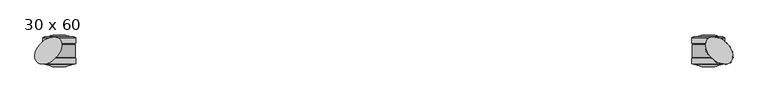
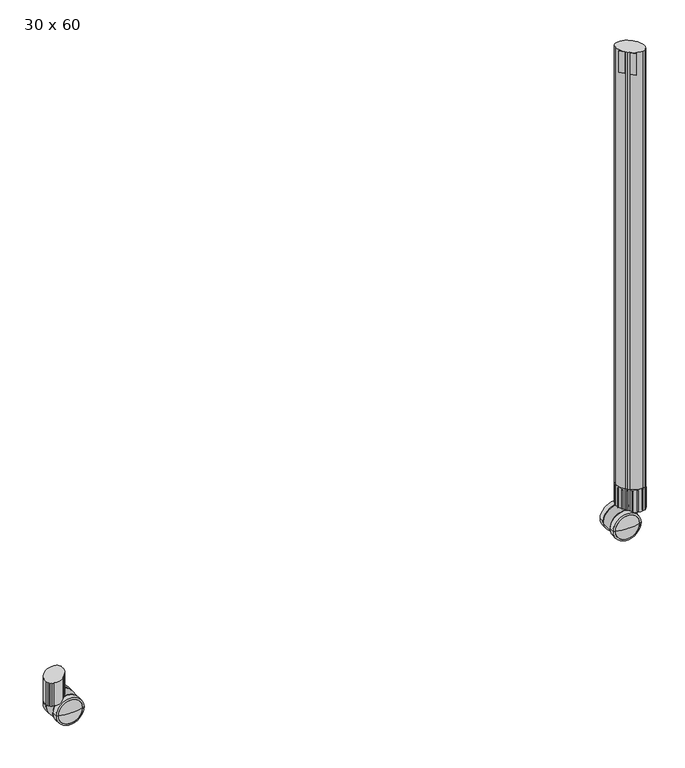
"""IFC4 building model written with IfcOpenShell, lengths in millimetres: furniture geometry, SmithSystem_AM_Desking_Education_Interchange_Student_Activity : 30 x 60."""

from ifc_helpers import new_model, si_unit, point, frame, frame_2d, origin, place, context, project, spatial, polyline, circle_curve, ellipse_curve, trimmed, segment, composite_curve, outline, extrude, source, transform, mapped, element, save
from ifc_brep_helpers import plane_surface, cylinder_surface, revolved_surface, advanced_brep


def furniture_30_x_60_d7a7b847(model_context):
    return source(origin(), model_context, "Body", "SolidModel", [
        advanced_brep(
        [(1479.3682807, 686.5171568, 35.017382), (1418.7629669, 686.5171568, 35.017382), (1418.7629669, 673.2758867, 35.017382), (1479.3682807, 673.2758867, 35.017382), (1483.6326573, 686.5171568, 35.017382), (1414.4985903, 686.5171568, 35.017382), (1483.6326573, 674.7474734, 35.017382), (1414.4985903, 674.7474734, 35.017382)],
        [
            (0, 1, circle_curve(frame((1449.0656238, 686.5171568, 35.017382), z_axis=(0.0, 1.0, 0.0), x_axis=(-1.0000000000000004, 0.0, 0.0)), 30.3026569)),
            (1, 2),
            (2, 3, circle_curve(frame((1449.0656238, 673.2758867, 35.017382), z_axis=(0.0, -1.0, 0.0), x_axis=(-1.0000000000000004, 0.0, 0.0)), 30.3026569)),
            (3, 0),
            (1, 0, circle_curve(frame((1449.0656238, 686.5171568, 35.017382), z_axis=(0.0, 1.0, 0.0), x_axis=(-1.0000000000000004, 0.0, 0.0)), 30.3026569)),
            (3, 2, circle_curve(frame((1449.0656238, 673.2758867, 35.017382), z_axis=(0.0, -1.0, 0.0), x_axis=(-1.0000000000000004, 0.0, 0.0)), 30.3026569)),
            (4, 5, circle_curve(frame((1449.0656238, 686.5171568, 35.017382), z_axis=(0.0, 1.0, 0.0), x_axis=(-1.0000000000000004, 0.0, 0.0)), 34.5670335)),
            (5, 1),
            (0, 4),
            (5, 4, circle_curve(frame((1449.0656238, 686.5171568, 35.017382), z_axis=(0.0, 1.0, 0.0), x_axis=(-1.0000000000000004, 0.0, 0.0)), 34.5670335)),
            (6, 7, circle_curve(frame((1449.0656238, 674.7474734, 35.017382), z_axis=(0.0, 1.0, 0.0), x_axis=(-1.0000000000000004, 0.0, 0.0)), 34.5670335)),
            (7, 5),
            (4, 6),
            (7, 6, circle_curve(frame((1449.0656238, 674.7474734, 35.017382), z_axis=(0.0, 1.0, 0.0), x_axis=(-1.0000000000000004, 0.0, 0.0)), 34.5670335)),
            (2, 7),
            (6, 3),
        ],
        [
            revolved_surface(polyline([(1418.7629668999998, 673.2758867, 35.017382), (1418.7629668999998, 686.5171568, 35.017382)]), (1449.0656238, 686.5171568, 35.017382), (0.0, -1.0, 0.0)),
            plane_surface(frame((1449.0656238, 686.5171568, 35.017382), z_axis=(0.0, 1.0, 0.0), x_axis=(-1.0, 0.0, 0.0))),
            cylinder_surface(frame((1449.0656238, 686.5171568, 35.017382), z_axis=(0.0, -1.0, 0.0), x_axis=(-1.0000000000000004, 0.0, 0.0)), 34.5670335),
            revolved_surface(polyline([(1414.4985903, 674.7474734, 35.017382), (1418.7629669, 673.2758867, 35.017382)]), (1449.0656238, 686.5171568, 35.017382), (0.0, -1.0, 0.0)),
        ],
        [
            (0, [[1, 2, 3, 4]]),
            (0, [[5, -4, 6, -2]]),
            (1, [[7, 8, -1, 9]]),
            (1, [[10, -9, -5, -8]]),
            (2, [[11, 12, -7, 13]]),
            (2, [[14, -13, -10, -12]]),
            (3, [[-3, 15, -11, 16]]),
            (3, [[-6, -16, -14, -15]]),
        ],
    ),
        advanced_brep(
        [(1483.6326573, 730.1295585, 35.017382), (1414.4985903, 730.1295585, 35.017382), (1418.7629669, 731.6011452, 35.017382), (1479.3682807, 731.6011452, 35.017382), (1483.6326573, 718.3598751, 35.017382), (1414.4985903, 718.3598751, 35.017382), (1479.3682807, 718.3598751, 35.017382), (1418.7629669, 718.3598751, 35.017382)],
        [
            (0, 1, circle_curve(frame((1449.0656238, 730.1295585, 35.017382), z_axis=(0.0, 1.0, 0.0), x_axis=(-1.0000000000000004, 0.0, 0.0)), 34.5670335)),
            (1, 2),
            (2, 3, circle_curve(frame((1449.0656238, 731.6011452, 35.017382), z_axis=(0.0, -1.0, 0.0), x_axis=(-1.0000000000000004, 0.0, 0.0)), 30.3026569)),
            (3, 0),
            (1, 0, circle_curve(frame((1449.0656238, 730.1295585, 35.017382), z_axis=(0.0, 1.0, 0.0), x_axis=(-1.0000000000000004, 0.0, 0.0)), 34.5670335)),
            (3, 2, circle_curve(frame((1449.0656238, 731.6011452, 35.017382), z_axis=(0.0, -1.0, 0.0), x_axis=(-1.0000000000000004, 0.0, 0.0)), 30.3026569)),
            (4, 5, circle_curve(frame((1449.0656238, 718.3598751, 35.017382), z_axis=(0.0, 1.0, 0.0), x_axis=(-1.0000000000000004, 0.0, 0.0)), 34.5670335)),
            (5, 1),
            (0, 4),
            (5, 4, circle_curve(frame((1449.0656238, 718.3598751, 35.017382), z_axis=(0.0, 1.0, 0.0), x_axis=(-1.0000000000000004, 0.0, 0.0)), 34.5670335)),
            (6, 7, circle_curve(frame((1449.0656238, 718.3598751, 35.017382), z_axis=(0.0, 1.0, 0.0), x_axis=(-1.0000000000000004, 0.0, 0.0)), 30.3026569)),
            (7, 5),
            (4, 6),
            (7, 6, circle_curve(frame((1449.0656238, 718.3598751, 35.017382), z_axis=(0.0, 1.0, 0.0), x_axis=(-1.0000000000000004, 0.0, 0.0)), 30.3026569)),
            (2, 7),
            (6, 3),
        ],
        [
            revolved_surface(polyline([(1418.7629669, 731.6011452, 35.017382), (1414.4985903, 730.1295585, 35.017382)]), (1449.0656238, 686.5171568, 35.017382), (0.0, -1.0, 0.0)),
            cylinder_surface(frame((1449.0656238, 686.5171568, 35.017382), z_axis=(0.0, -1.0, 0.0), x_axis=(-1.0000000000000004, 0.0, 0.0)), 34.5670335),
            plane_surface(frame((1449.0656238, 718.3598751, 35.017382), z_axis=(0.0, -1.0, 0.0), x_axis=(-1.0, 0.0, 0.0))),
            revolved_surface(polyline([(1418.7629668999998, 718.3598751, 35.017382), (1418.7629668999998, 731.6011452, 35.017382)]), (1449.0656238, 686.5171568, 35.017382), (0.0, -1.0, 0.0)),
        ],
        [
            (0, [[1, 2, 3, 4]]),
            (0, [[5, -4, 6, -2]]),
            (1, [[7, 8, -1, 9]]),
            (1, [[10, -9, -5, -8]]),
            (2, [[11, 12, -7, 13]]),
            (2, [[14, -13, -10, -12]]),
            (3, [[-3, 15, -11, 16]]),
            (3, [[-6, -16, -14, -15]]),
        ],
    ),
        extrude(outline(composite_curve([segment(polyline([(19.2150301, 1452.4697558), (19.2150301, 1479.476395)]), True, "CONTINUOUS"), segment(trimmed(circle_curve(frame_2d((35.017382, 1449.0656238)), 34.2714069), [point((19.2150301, 1479.476395))], [point((30.4371053, 1415.1016665))], False, "CARTESIAN"), True, "CONTINUOUS"), segment(polyline([(30.4371053, 1415.1016665), (25.5146264, 1423.9644339), (25.5146264, 1446.1701594), (19.2150301, 1452.4697558)]), True, "CONTINUOUS")], self_intersect=False)), frame((0.0, 688.2472519, 0.0), z_axis=(0.0, 1.0, 0.0), x_axis=(0.0, 0.0, 1.0)), (0.0, 0.0, 1.0), 26.9875),
        advanced_brep(
        [(1479.3682807, 686.5171568, 35.017382), (1418.7629669, 686.5171568, 35.017382), (1449.0656238, 686.5171568, 35.017382), (1449.0656238, 668.1943698, 35.017382), (1418.7629669, 673.2758867, 35.017382), (1479.3682807, 673.2758867, 35.017382)],
        [
            (0, 1, circle_curve(frame((1449.0656238, 686.5171568, 35.017382), z_axis=(0.0, 1.0, 0.0), x_axis=(-1.0000000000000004, 0.0, 0.0)), 30.3026569)),
            (1, 2),
            (2, 0),
            (1, 0, circle_curve(frame((1449.0656238, 686.5171568, 35.017382), z_axis=(0.0, 1.0, 0.0), x_axis=(-1.0000000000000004, 0.0, 0.0)), 30.3026569)),
            (3, 4, circle_curve(frame((1449.0656238, 761.0871862, 35.017382), z_axis=(0.0, 0.0, -1.0000000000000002), x_axis=(0.0, 1.0, 0.0)), 92.8928164)),
            (4, 5, circle_curve(frame((1449.0656238, 673.2758867, 35.017382), z_axis=(0.0, -1.0, 0.0), x_axis=(-1.0000000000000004, 0.0, 0.0)), 30.3026569)),
            (5, 3, circle_curve(frame((1449.0656238, 761.0871862, 35.017382), z_axis=(0.0, 0.0, -1.0000000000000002), x_axis=(0.0, 1.0, 0.0)), 92.8928164)),
            (5, 4, circle_curve(frame((1449.0656238, 673.2758867, 35.017382), z_axis=(0.0, -1.0, 0.0), x_axis=(-1.0000000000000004, 0.0, 0.0)), 30.3026569)),
            (4, 1),
            (0, 5),
        ],
        [
            plane_surface(frame((1449.0656238, 686.5171568, 35.017382), z_axis=(0.0, 1.0, 0.0), x_axis=(-1.0, 0.0, 0.0))),
            revolved_surface(trimmed(ellipse_curve(frame((1449.0656238, 761.0871862, 35.017382), z_axis=(0.0, 0.0, 1.0000000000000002), x_axis=(0.0, 1.0, 0.0)), 92.8928164, 92.8928164), [point((1418.7629669, 673.2758867, 35.017382))], [point((1449.0656238, 668.1943698, 35.017382))], True, "CARTESIAN"), (1449.0656238, 686.5171568, 35.017382), (0.0, -1.0, 0.0)),
            cylinder_surface(frame((1449.0656238, 686.5171568, 35.017382), z_axis=(0.0, -1.0, 0.0), x_axis=(-1.0000000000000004, 0.0, 0.0)), 30.3026569),
        ],
        [
            (0, [[1, 2, 3]]),
            (0, [[4, -3, -2]]),
            (1, [[5, 6, 7]]),
            (1, [[-7, 8, -5]]),
            (2, [[-6, 9, -1, 10]]),
            (2, [[-8, -10, -4, -9]]),
        ],
    ),
        advanced_brep(
        [(1479.3682807, 717.1194939, 35.017382), (1418.7629669, 717.1194939, 35.017382), (1418.7629669, 730.360764, 35.017382), (1479.3682807, 730.360764, 35.017382), (1449.0656238, 735.4422809, 35.017382), (1449.0656238, 717.1194939, 35.017382)],
        [
            (0, 1, circle_curve(frame((1449.0656238, 717.1194939, 35.017382), z_axis=(0.0, 1.0, 0.0), x_axis=(-1.0000000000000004, 0.0, 0.0)), 30.3026569)),
            (1, 2),
            (2, 3, circle_curve(frame((1449.0656238, 730.360764, 35.017382), z_axis=(0.0, -1.0, 0.0), x_axis=(-1.0000000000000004, 0.0, 0.0)), 30.3026569)),
            (3, 0),
            (1, 0, circle_curve(frame((1449.0656238, 717.1194939, 35.017382), z_axis=(0.0, 1.0, 0.0), x_axis=(-1.0000000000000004, 0.0, 0.0)), 30.3026569)),
            (3, 2, circle_curve(frame((1449.0656238, 730.360764, 35.017382), z_axis=(0.0, -1.0, 0.0), x_axis=(-1.0000000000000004, 0.0, 0.0)), 30.3026569)),
            (2, 4, circle_curve(frame((1449.0656238, 642.5494645, 35.017382), z_axis=(0.0, 0.0, -1.0000000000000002), x_axis=(0.0, 1.0, 0.0)), 92.8928164)),
            (4, 3, circle_curve(frame((1449.0656238, 642.5494645, 35.017382), z_axis=(0.0, 0.0, -1.0000000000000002), x_axis=(0.0, 1.0, 0.0)), 92.8928164)),
            (5, 1),
            (0, 5),
        ],
        [
            cylinder_surface(frame((1449.0656238, 686.5171568, 35.017382), z_axis=(0.0, -1.0, 0.0), x_axis=(-1.0000000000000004, 0.0, 0.0)), 30.3026569),
            revolved_surface(trimmed(ellipse_curve(frame((1449.0656238, 642.5494645, 35.017382), z_axis=(0.0, 0.0, 1.0000000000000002), x_axis=(0.0, 1.0, 0.0)), 92.8928164, 92.8928164), [point((1449.0656238, 735.4422809, 35.017382))], [point((1418.7629669, 730.360764, 35.017382))], True, "CARTESIAN"), (1449.0656238, 686.5171568, 35.017382), (0.0, -1.0, 0.0)),
            plane_surface(frame((1449.0656238, 717.1194939, 35.017382), z_axis=(0.0, -1.0, 0.0), x_axis=(-1.0, 0.0, 0.0))),
        ],
        [
            (0, [[1, 2, 3, 4]]),
            (0, [[5, -4, 6, -2]]),
            (1, [[-3, 7, 8]]),
            (1, [[-6, -8, -7]]),
            (2, [[9, -1, 10]]),
            (2, [[-10, -5, -9]]),
        ],
    ),
        advanced_brep(
        [(1472.3098504, 702.4385159, 82.55), (1457.1881611, 687.3168266, 82.55), (1487.4315397, 717.5602052, 82.55), (1479.1455485, 709.274214, 44.141232), (1465.4741524, 695.6028179, 44.141232), (1472.3098504, 702.4385159, 44.141232), (1479.1455485, 709.274214, 70.5739), (1465.4741524, 695.6028179, 70.5739), (1475.4087581, 705.5374236, 70.5739), (1469.2109428, 699.3396083, 70.5739), (1475.4087581, 705.5374236, 72.4789), (1469.2109428, 699.3396083, 72.4789), (1479.1455485, 709.274214, 72.4789), (1465.4741524, 695.6028179, 72.4789), (1479.1455485, 709.274214, 77.5589), (1465.4741524, 695.6028179, 77.5589), (1487.4315397, 717.5602052, 77.5589), (1457.1881611, 687.3168266, 77.5589)],
        [
            (0, 1),
            (1, 2, circle_curve(frame((1472.3098504, 702.4385159, 82.55), z_axis=(0.0, 0.0, 1.0), x_axis=(-0.7071067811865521, -0.707106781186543, 0.0)), 21.3852981)),
            (2, 0),
            (2, 1, circle_curve(frame((1472.3098504, 702.4385159, 82.55), z_axis=(0.0, 0.0, 1.0), x_axis=(-0.7071067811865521, -0.707106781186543, 0.0)), 21.3852981)),
            (3, 4, circle_curve(frame((1472.3098504, 702.4385159, 44.141232), z_axis=(0.0, 0.0, -1.0), x_axis=(-0.7071067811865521, -0.707106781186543, 0.0)), 9.6671369)),
            (4, 5),
            (5, 3),
            (4, 3, circle_curve(frame((1472.3098504, 702.4385159, 44.141232), z_axis=(0.0, 0.0, -1.0), x_axis=(-0.7071067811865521, -0.707106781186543, 0.0)), 9.6671369)),
            (6, 7, circle_curve(frame((1472.3098504, 702.4385159, 70.5739), z_axis=(0.0, 0.0, -1.0), x_axis=(-0.7071067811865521, -0.707106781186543, 0.0)), 9.6671369)),
            (7, 4),
            (3, 6),
            (7, 6, circle_curve(frame((1472.3098504, 702.4385159, 70.5739), z_axis=(0.0, 0.0, -1.0), x_axis=(-0.7071067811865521, -0.707106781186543, 0.0)), 9.6671369)),
            (8, 9, circle_curve(frame((1472.3098504, 702.4385159, 70.5739), z_axis=(0.0, 0.0, -1.0), x_axis=(-0.7071067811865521, -0.707106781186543, 0.0)), 4.3825172)),
            (9, 7),
            (6, 8),
            (9, 8, circle_curve(frame((1472.3098504, 702.4385159, 70.5739), z_axis=(0.0, 0.0, -1.0), x_axis=(-0.7071067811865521, -0.707106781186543, 0.0)), 4.3825172)),
            (10, 11, circle_curve(frame((1472.3098504, 702.4385159, 72.4789), z_axis=(0.0, 0.0, -1.0), x_axis=(-0.7071067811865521, -0.707106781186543, 0.0)), 4.3825172)),
            (11, 9),
            (8, 10),
            (11, 10, circle_curve(frame((1472.3098504, 702.4385159, 72.4789), z_axis=(0.0, 0.0, -1.0), x_axis=(-0.7071067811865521, -0.707106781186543, 0.0)), 4.3825172)),
            (12, 13, circle_curve(frame((1472.3098504, 702.4385159, 72.4789), z_axis=(0.0, 0.0, -1.0), x_axis=(-0.7071067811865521, -0.707106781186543, 0.0)), 9.6671369)),
            (13, 11),
            (10, 12),
            (13, 12, circle_curve(frame((1472.3098504, 702.4385159, 72.4789), z_axis=(0.0, 0.0, -1.0), x_axis=(-0.7071067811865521, -0.707106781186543, 0.0)), 9.6671369)),
            (14, 15, circle_curve(frame((1472.3098504, 702.4385159, 77.5589), z_axis=(0.0, 0.0, -1.0), x_axis=(-0.7071067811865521, -0.707106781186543, 0.0)), 9.6671369)),
            (15, 13),
            (12, 14),
            (15, 14, circle_curve(frame((1472.3098504, 702.4385159, 77.5589), z_axis=(0.0, 0.0, -1.0), x_axis=(-0.7071067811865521, -0.707106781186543, 0.0)), 9.6671369)),
            (16, 17, circle_curve(frame((1472.3098504, 702.4385159, 77.5589), z_axis=(0.0, 0.0, -1.0), x_axis=(-0.7071067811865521, -0.707106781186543, 0.0)), 21.3852981)),
            (17, 15),
            (14, 16),
            (17, 16, circle_curve(frame((1472.3098504, 702.4385159, 77.5589), z_axis=(0.0, 0.0, -1.0), x_axis=(-0.7071067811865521, -0.707106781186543, 0.0)), 21.3852981)),
            (1, 17),
            (16, 2),
        ],
        [
            plane_surface(frame((1472.3098504, 702.4385159, 82.55), z_axis=(0.0, 0.0, 1.0000000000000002), x_axis=(-0.7071067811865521, -0.707106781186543, 0.0))),
            plane_surface(frame((1472.3098504, 702.4385159, 44.141232), z_axis=(0.0, 0.0, -1.0000000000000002), x_axis=(-0.7071067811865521, -0.707106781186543, 0.0))),
            cylinder_surface(frame((1472.3098504, 702.4385159, 56.841232), z_axis=(0.0, 0.0, 1.0), x_axis=(-0.7071067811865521, -0.707106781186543, 0.0)), 9.6671369),
            plane_surface(frame((1472.3098504, 702.4385159, 70.5739), z_axis=(0.0, 0.0, 1.0000000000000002), x_axis=(-0.7071067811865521, -0.707106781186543, 0.0))),
            cylinder_surface(frame((1472.3098504, 702.4385159, 56.841232), z_axis=(0.0, 0.0, 1.0), x_axis=(-0.7071067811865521, -0.707106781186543, 0.0)), 4.3825172),
            plane_surface(frame((1472.3098504, 702.4385159, 72.4789), z_axis=(0.0, 0.0, -1.0000000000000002), x_axis=(-0.7071067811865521, -0.707106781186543, 0.0))),
            plane_surface(frame((1472.3098504, 702.4385159, 77.5589), z_axis=(0.0, 0.0, -1.0000000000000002), x_axis=(-0.7071067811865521, -0.707106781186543, 0.0))),
            cylinder_surface(frame((1472.3098504, 702.4385159, 56.841232), z_axis=(0.0, 0.0, 1.0), x_axis=(-0.7071067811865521, -0.707106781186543, 0.0)), 21.3852981),
        ],
        [
            (0, [[1, 2, 3]]),
            (0, [[-3, 4, -1]]),
            (1, [[5, 6, 7]]),
            (1, [[8, -7, -6]]),
            (2, [[9, 10, -5, 11]]),
            (2, [[12, -11, -8, -10]]),
            (3, [[13, 14, -9, 15]]),
            (3, [[16, -15, -12, -14]]),
            (4, [[17, 18, -13, 19]]),
            (4, [[20, -19, -16, -18]]),
            (5, [[21, 22, -17, 23]]),
            (5, [[24, -23, -20, -22]]),
            (2, [[25, 26, -21, 27]]),
            (2, [[28, -27, -24, -26]]),
            (6, [[29, 30, -25, 31]]),
            (6, [[32, -31, -28, -30]]),
            (7, [[-2, 33, -29, 34]]),
            (7, [[-4, -34, -32, -33]]),
        ],
    ),
        extrude(outline(composite_curve([segment(trimmed(circle_curve(frame_2d((1476.4964298, 713.8093002)), 32.5855406), [point((1453.4549731, 690.7678435))], [point((1444.1537769, 717.7804787))], False, "CARTESIAN"), True, "CONTINUOUS"), segment(trimmed(circle_curve(frame_2d((1463.6817209, 715.3827486)), 19.6745954), [point((1444.1537769, 717.7804787))], [point((1445.5137305, 722.9334989))], False, "CARTESIAN"), True, "CONTINUOUS"), segment(trimmed(circle_curve(frame_2d((1453.7793536, 719.4982452)), 8.9510611), [point((1445.5137305, 722.9334989))], [point((1447.4499976, 725.8276012))], False, "CARTESIAN"), True, "CONTINUOUS"), segment(polyline([(1447.4499976, 725.8276012), (1448.1853814, 726.5629849), (1448.9207652, 727.2983687)]), True, "CONTINUOUS"), segment(trimmed(circle_curve(frame_2d((1455.2501212, 720.9690127)), 8.9510611), [point((1448.9207652, 727.2983687))], [point((1451.8148675, 729.2346359))], False, "CARTESIAN"), True, "CONTINUOUS"), segment(trimmed(circle_curve(frame_2d((1459.3656177, 711.0666455)), 19.6745954), [point((1451.8148675, 729.2346359))], [point((1456.9678877, 730.5945895))], False, "CARTESIAN"), True, "CONTINUOUS"), segment(trimmed(circle_curve(frame_2d((1460.9390661, 698.2519365)), 32.5855406), [point((1456.9678877, 730.5945895))], [point((1483.9805229, 721.2933933))], False, "CARTESIAN"), True, "CONTINUOUS"), segment(polyline([(1483.9805229, 721.2933933), (1487.5726253, 717.7012908), (1491.1647278, 714.1091884)]), True, "CONTINUOUS"), segment(trimmed(circle_curve(frame_2d((1468.123271, 691.0677316)), 32.5855406), [point((1491.1647278, 714.1091884))], [point((1500.465924, 687.0965532))], False, "CARTESIAN"), True, "CONTINUOUS"), segment(trimmed(circle_curve(frame_2d((1480.93798, 689.4942832)), 19.6745954), [point((1500.465924, 687.0965532))], [point((1499.1059704, 681.943533))], False, "CARTESIAN"), True, "CONTINUOUS"), segment(trimmed(circle_curve(frame_2d((1490.8403472, 685.3787867)), 8.9510611), [point((1499.1059704, 681.943533))], [point((1497.1697032, 679.0494307))], False, "CARTESIAN"), True, "CONTINUOUS"), segment(polyline([(1497.1697032, 679.0494307), (1496.4343195, 678.3140469), (1495.6989357, 677.5786631)]), True, "CONTINUOUS"), segment(trimmed(circle_curve(frame_2d((1489.3695797, 683.9080191)), 8.9510611), [point((1495.6989357, 677.5786631))], [point((1492.8048334, 675.6423959))], False, "CARTESIAN"), True, "CONTINUOUS"), segment(trimmed(circle_curve(frame_2d((1485.2540831, 693.8103864)), 19.6745954), [point((1492.8048334, 675.6423959))], [point((1487.6518132, 674.2824424))], False, "CARTESIAN"), True, "CONTINUOUS"), segment(trimmed(circle_curve(frame_2d((1483.6806347, 706.6250953)), 32.5855406), [point((1487.6518132, 674.2824424))], [point((1460.639178, 683.5836386))], False, "CARTESIAN"), True, "CONTINUOUS"), segment(polyline([(1460.639178, 683.5836386), (1457.0470756, 687.175741), (1453.4549731, 690.7678435)]), True, "CONTINUOUS")], self_intersect=False)), frame((0.0, 0.0, 63.4997351), z_axis=(0.0, 0.0, 1.0), x_axis=(1.0, 0.0, 0.0)), (0.0, 0.0, 1.0), 59.42631),
        extrude(outline(composite_curve([segment(polyline([(1488.4706509, 716.8032652), (1487.5726253, 717.7012908), (1486.6745997, 718.5993164)]), True, "CONTINUOUS"), segment(trimmed(circle_curve(frame_2d((1487.5726253, 717.7012908)), 1.27), [point((1486.6745997, 718.5993164))], [point((1488.4706509, 716.8032652))], False, "CARTESIAN"), True, "CONTINUOUS")], self_intersect=False)), frame((0.0, 0.0, 67.2639757), z_axis=(0.0, 0.0, 1.0), x_axis=(1.0, 0.0, 0.0)), (0.0, 0.0, 1.0), 52.9554897),
        extrude(outline(composite_curve([segment(polyline([(1495.5099845, 677.4423306), (1496.4080101, 678.3403563), (1497.3060357, 679.2383819)]), True, "CONTINUOUS"), segment(trimmed(circle_curve(frame_2d((1496.4080101, 678.3403563)), 1.27), [point((1497.3060357, 679.2383819))], [point((1495.5099845, 677.4423306))], False, "CARTESIAN"), True, "CONTINUOUS")], self_intersect=False)), frame((0.0, 0.0, 67.2639757), z_axis=(0.0, 0.0, 1.0), x_axis=(1.0, 0.0, 0.0)), (0.0, 0.0, 1.0), 52.9554897),
        extrude(outline(composite_curve([segment(trimmed(circle_curve(frame_2d((1448.2116908, 726.5366756)), 1.27), [point((1447.3136652, 725.63865))], [point((1449.1097164, 727.4347012))], False, "CARTESIAN"), True, "CONTINUOUS"), segment(polyline([(1449.1097164, 727.4347012), (1448.2116908, 726.5366756), (1447.3136652, 725.63865)]), True, "CONTINUOUS")], self_intersect=False)), frame((0.0, 0.0, 67.2639757), z_axis=(0.0, 0.0, 1.0), x_axis=(1.0, 0.0, 0.0)), (0.0, 0.0, 1.0), 52.9554897),
        extrude(outline(composite_curve([segment(trimmed(circle_curve(frame_2d((1458.0779787, 730.6574596)), 1.27), [point((1456.8120338, 730.5560515))], [point((1459.3439236, 730.7588676))], False, "CARTESIAN"), True, "CONTINUOUS"), segment(polyline([(1459.3439236, 730.7588676), (1458.0779787, 730.6574596), (1456.8120338, 730.5560515)]), True, "CONTINUOUS")], self_intersect=False)), frame((0.0, 0.0, 67.2639757), z_axis=(0.0, 0.0, 1.0), x_axis=(1.0, 0.0, 0.0)), (0.0, 0.0, 1.0), 52.9554897),
        extrude(outline(composite_curve([segment(trimmed(circle_curve(frame_2d((1469.1209477, 729.7234059)), 1.27), [point((1467.8909581, 730.039674))], [point((1470.3509373, 729.4071377))], False, "CARTESIAN"), True, "CONTINUOUS"), segment(polyline([(1470.3509373, 729.4071377), (1469.1209477, 729.7234059), (1467.8909581, 730.039674)]), True, "CONTINUOUS")], self_intersect=False)), frame((0.0, 0.0, 67.2639757), z_axis=(0.0, 0.0, 1.0), x_axis=(1.0, 0.0, 0.0)), (0.0, 0.0, 1.0), 52.9554897),
        extrude(outline(composite_curve([segment(trimmed(circle_curve(frame_2d((1479.2770478, 725.1239568)), 1.27), [point((1478.2294057, 725.8418329))], [point((1480.3246899, 724.4060807))], False, "CARTESIAN"), True, "CONTINUOUS"), segment(polyline([(1480.3246899, 724.4060807), (1479.2770478, 725.1239568), (1478.2294057, 725.8418329)]), True, "CONTINUOUS")], self_intersect=False)), frame((0.0, 0.0, 67.2639757), z_axis=(0.0, 0.0, 1.0), x_axis=(1.0, 0.0, 0.0)), (0.0, 0.0, 1.0), 52.9554897),
        extrude(outline(composite_curve([segment(polyline([(1500.427386, 686.9406993), (1500.5287941, 688.2066442), (1500.6302021, 689.4725891)]), True, "CONTINUOUS"), segment(trimmed(circle_curve(frame_2d((1500.5287941, 688.2066442)), 1.27), [point((1500.6302021, 689.4725891))], [point((1500.427386, 686.9406993))], False, "CARTESIAN"), True, "CONTINUOUS")], self_intersect=False)), frame((0.0, 0.0, 67.2639757), z_axis=(0.0, 0.0, 1.0), x_axis=(1.0, 0.0, 0.0)), (0.0, 0.0, 1.0), 52.9554897),
        extrude(outline(composite_curve([segment(polyline([(1499.9110085, 698.0196236), (1499.5947404, 699.2496132), (1499.2784722, 700.4796028)]), True, "CONTINUOUS"), segment(trimmed(circle_curve(frame_2d((1499.5947404, 699.2496132)), 1.27), [point((1499.2784722, 700.4796028))], [point((1499.9110085, 698.0196236))], False, "CARTESIAN"), True, "CONTINUOUS")], self_intersect=False)), frame((0.0, 0.0, 67.2639757), z_axis=(0.0, 0.0, 1.0), x_axis=(1.0, 0.0, 0.0)), (0.0, 0.0, 1.0), 52.9554897),
        extrude(outline(composite_curve([segment(polyline([(1495.7131674, 708.3580712), (1494.9952913, 709.4057133), (1494.2774152, 710.4533554)]), True, "CONTINUOUS"), segment(trimmed(circle_curve(frame_2d((1494.9952913, 709.4057133)), 1.27), [point((1494.2774152, 710.4533554))], [point((1495.7131674, 708.3580712))], False, "CARTESIAN"), True, "CONTINUOUS")], self_intersect=False)), frame((0.0, 0.0, 67.2639757), z_axis=(0.0, 0.0, 1.0), x_axis=(1.0, 0.0, 0.0)), (0.0, 0.0, 1.0), 52.9554897),
        extrude(outline(composite_curve([segment(trimmed(circle_curve(frame_2d((1457.0470756, 687.175741)), 1.27), [point((1457.9451012, 686.2777154))], [point((1456.1490499, 688.0737667))], False, "CARTESIAN"), True, "CONTINUOUS"), segment(polyline([(1456.1490499, 688.0737667), (1457.0470756, 687.175741), (1457.9451012, 686.2777154)]), True, "CONTINUOUS")], self_intersect=False)), frame((0.0, 0.0, 67.2639757), z_axis=(0.0, 0.0, 1.0), x_axis=(1.0, 0.0, 0.0)), (0.0, 0.0, 1.0), 52.9554897),
        extrude(outline(composite_curve([segment(polyline([(1444.1923149, 717.9363325), (1444.0909068, 716.6703877), (1443.9894988, 715.4044428)]), True, "CONTINUOUS"), segment(trimmed(circle_curve(frame_2d((1444.0909068, 716.6703877)), 1.27), [point((1443.9894988, 715.4044428))], [point((1444.1923149, 717.9363325))], False, "CARTESIAN"), True, "CONTINUOUS")], self_intersect=False)), frame((0.0, 0.0, 67.2639757), z_axis=(0.0, 0.0, 1.0), x_axis=(1.0, 0.0, 0.0)), (0.0, 0.0, 1.0), 52.9554897),
        extrude(outline(composite_curve([segment(polyline([(1444.7086924, 706.8574083), (1445.0249605, 705.6274187), (1445.3412287, 704.397429)]), True, "CONTINUOUS"), segment(trimmed(circle_curve(frame_2d((1445.0249605, 705.6274187)), 1.27), [point((1445.3412287, 704.397429))], [point((1444.7086924, 706.8574083))], False, "CARTESIAN"), True, "CONTINUOUS")], self_intersect=False)), frame((0.0, 0.0, 67.2639757), z_axis=(0.0, 0.0, 1.0), x_axis=(1.0, 0.0, 0.0)), (0.0, 0.0, 1.0), 52.9554897),
        extrude(outline(composite_curve([segment(polyline([(1448.9065335, 696.5189606), (1449.6244096, 695.4713185), (1450.3422857, 694.4236765)]), True, "CONTINUOUS"), segment(trimmed(circle_curve(frame_2d((1449.6244096, 695.4713185)), 1.27), [point((1450.3422857, 694.4236765))], [point((1448.9065335, 696.5189606))], False, "CARTESIAN"), True, "CONTINUOUS")], self_intersect=False)), frame((0.0, 0.0, 67.2639757), z_axis=(0.0, 0.0, 1.0), x_axis=(1.0, 0.0, 0.0)), (0.0, 0.0, 1.0), 52.9554897),
        extrude(outline(composite_curve([segment(trimmed(circle_curve(frame_2d((1486.5417222, 674.2195723)), 1.27), [point((1487.807667, 674.3209803))], [point((1485.2757773, 674.1181643))], False, "CARTESIAN"), True, "CONTINUOUS"), segment(polyline([(1485.2757773, 674.1181643), (1486.5417222, 674.2195723), (1487.807667, 674.3209803)]), True, "CONTINUOUS")], self_intersect=False)), frame((0.0, 0.0, 67.2639757), z_axis=(0.0, 0.0, 1.0), x_axis=(1.0, 0.0, 0.0)), (0.0, 0.0, 1.0), 52.9554897),
        extrude(outline(composite_curve([segment(trimmed(circle_curve(frame_2d((1475.4987532, 675.153626)), 1.27), [point((1476.7287428, 674.8373578))], [point((1474.2687635, 675.4698941))], False, "CARTESIAN"), True, "CONTINUOUS"), segment(polyline([(1474.2687635, 675.4698941), (1475.4987532, 675.153626), (1476.7287428, 674.8373578)]), True, "CONTINUOUS")], self_intersect=False)), frame((0.0, 0.0, 67.2639757), z_axis=(0.0, 0.0, 1.0), x_axis=(1.0, 0.0, 0.0)), (0.0, 0.0, 1.0), 52.9554897),
        extrude(outline(composite_curve([segment(trimmed(circle_curve(frame_2d((1465.3426531, 679.7530751)), 1.27), [point((1466.3902951, 679.035199))], [point((1464.295011, 680.4709511))], False, "CARTESIAN"), True, "CONTINUOUS"), segment(polyline([(1464.295011, 680.4709511), (1465.3426531, 679.7530751), (1466.3902951, 679.035199)]), True, "CONTINUOUS")], self_intersect=False)), frame((0.0, 0.0, 67.2639757), z_axis=(0.0, 0.0, 1.0), x_axis=(1.0, 0.0, 0.0)), (0.0, 0.0, 1.0), 52.9554897),
        extrude(outline(composite_curve([segment(polyline([(1483.9805229, 721.2933933), (1487.5726253, 717.7012908), (1491.1647278, 714.1091884)]), True, "CONTINUOUS"), segment(trimmed(circle_curve(frame_2d((1468.123271, 691.0677316)), 32.5855406), [point((1491.1647278, 714.1091884))], [point((1500.465924, 687.0965532))], False, "CARTESIAN"), True, "CONTINUOUS"), segment(trimmed(circle_curve(frame_2d((1480.93798, 689.4942832)), 19.6745954), [point((1500.465924, 687.0965532))], [point((1499.1059704, 681.943533))], False, "CARTESIAN"), True, "CONTINUOUS"), segment(trimmed(circle_curve(frame_2d((1490.8403472, 685.3787867)), 8.9510611), [point((1499.1059704, 681.943533))], [point((1497.1697032, 679.0494307))], False, "CARTESIAN"), True, "CONTINUOUS"), segment(polyline([(1497.1697032, 679.0494307), (1496.4343195, 678.3140469), (1495.6989357, 677.5786631)]), True, "CONTINUOUS"), segment(trimmed(circle_curve(frame_2d((1489.3695797, 683.9080191)), 8.9510611), [point((1495.6989357, 677.5786631))], [point((1492.8048334, 675.6423959))], False, "CARTESIAN"), True, "CONTINUOUS"), segment(trimmed(circle_curve(frame_2d((1485.2540831, 693.8103864)), 19.6745954), [point((1492.8048334, 675.6423959))], [point((1487.6518132, 674.2824424))], False, "CARTESIAN"), True, "CONTINUOUS"), segment(trimmed(circle_curve(frame_2d((1483.6806347, 706.6250953)), 32.5855406), [point((1487.6518132, 674.2824424))], [point((1460.639178, 683.5836386))], False, "CARTESIAN"), True, "CONTINUOUS"), segment(polyline([(1460.639178, 683.5836386), (1457.0470756, 687.175741), (1453.4549731, 690.7678435)]), True, "CONTINUOUS"), segment(trimmed(circle_curve(frame_2d((1476.4964298, 713.8093002)), 32.5855406), [point((1453.4549731, 690.7678435))], [point((1444.1537769, 717.7804787))], False, "CARTESIAN"), True, "CONTINUOUS"), segment(trimmed(circle_curve(frame_2d((1463.6817209, 715.3827486)), 19.6745954), [point((1444.1537769, 717.7804787))], [point((1445.5137305, 722.9334989))], False, "CARTESIAN"), True, "CONTINUOUS"), segment(trimmed(circle_curve(frame_2d((1453.7793536, 719.4982452)), 8.9510611), [point((1445.5137305, 722.9334989))], [point((1447.4499976, 725.8276012))], False, "CARTESIAN"), True, "CONTINUOUS"), segment(polyline([(1447.4499976, 725.8276012), (1448.1853814, 726.5629849), (1448.9207652, 727.2983687)]), True, "CONTINUOUS"), segment(trimmed(circle_curve(frame_2d((1455.2501212, 720.9690127)), 8.9510611), [point((1448.9207652, 727.2983687))], [point((1451.8148675, 729.2346359))], False, "CARTESIAN"), True, "CONTINUOUS"), segment(trimmed(circle_curve(frame_2d((1459.3656177, 711.0666455)), 19.6745954), [point((1451.8148675, 729.2346359))], [point((1456.9678877, 730.5945895))], False, "CARTESIAN"), True, "CONTINUOUS"), segment(trimmed(circle_curve(frame_2d((1460.9390661, 698.2519365)), 32.5855406), [point((1456.9678877, 730.5945895))], [point((1483.9805229, 721.2933933))], False, "CARTESIAN"), True, "CONTINUOUS")], self_intersect=False)), frame((0.0, 0.0, 122.9260451), z_axis=(0.0, 0.0, 1.0), x_axis=(1.0, 0.0, 0.0)), (0.0, 0.0, 1.0), 1140.1156939),
        extrude(outline(polyline([(1473.606676, 676.8390473), (1470.2618157, 673.4941871), (1443.4201876, 700.3358152), (1446.7650478, 703.6806755), (1473.606676, 676.8390473)])), frame((0.0, 0.0, 1207.0152169), z_axis=(0.0, 0.0, 1.0), x_axis=(1.0, 0.0, 0.0)), (0.0, 0.0, 1.0), 56.0265221),
        advanced_brep(
        [(44.3181701, 686.5171568, 35.017382), (44.3181701, 673.2758867, 35.017382), (104.9234839, 673.2758867, 35.017382), (104.9234839, 686.5171568, 35.017382), (40.0537935, 686.5171568, 35.017382), (109.1878605, 686.5171568, 35.017382), (40.0537935, 674.7474734, 35.017382), (109.1878605, 674.7474734, 35.017382)],
        [
            (0, 1),
            (1, 2, circle_curve(frame((74.620827, 673.2758867, 35.017382), z_axis=(0.0, -1.0, 0.0), x_axis=(1.0000000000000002, 0.0, 0.0)), 30.3026569)),
            (2, 3),
            (3, 0, circle_curve(frame((74.620827, 686.5171568, 35.017382), z_axis=(0.0, 1.0, 0.0), x_axis=(1.0000000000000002, 0.0, 0.0)), 30.3026569)),
            (2, 1, circle_curve(frame((74.620827, 673.2758867, 35.017382), z_axis=(0.0, -1.0, 0.0), x_axis=(1.0000000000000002, 0.0, 0.0)), 30.3026569)),
            (0, 3, circle_curve(frame((74.620827, 686.5171568, 35.017382), z_axis=(0.0, 1.0, 0.0), x_axis=(1.0000000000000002, 0.0, 0.0)), 30.3026569)),
            (4, 0),
            (3, 5),
            (5, 4, circle_curve(frame((74.620827, 686.5171568, 35.017382), z_axis=(0.0, 1.0, 0.0), x_axis=(1.0000000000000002, 0.0, 0.0)), 34.5670335)),
            (4, 5, circle_curve(frame((74.620827, 686.5171568, 35.017382), z_axis=(0.0, 1.0, 0.0), x_axis=(1.0000000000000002, 0.0, 0.0)), 34.5670335)),
            (6, 4),
            (5, 7),
            (7, 6, circle_curve(frame((74.620827, 674.7474734, 35.017382), z_axis=(0.0, 1.0, 0.0), x_axis=(1.0000000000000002, 0.0, 0.0)), 34.5670335)),
            (6, 7, circle_curve(frame((74.620827, 674.7474734, 35.017382), z_axis=(0.0, 1.0, 0.0), x_axis=(1.0000000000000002, 0.0, 0.0)), 34.5670335)),
            (1, 6),
            (7, 2),
        ],
        [
            revolved_surface(polyline([(104.92348390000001, 673.2758867, 35.017382), (104.92348390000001, 686.5171568, 35.017382)]), (74.620827, 686.5171568, 35.017382), (0.0, -1.0, 0.0)),
            plane_surface(frame((74.620827, 686.5171568, 35.017382), z_axis=(0.0, 1.0, 0.0), x_axis=(1.0, 0.0, 0.0))),
            cylinder_surface(frame((74.620827, 686.5171568, 35.017382), z_axis=(0.0, -1.0, 0.0), x_axis=(1.0000000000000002, 0.0, 0.0)), 34.5670335),
            revolved_surface(polyline([(109.1878605, 674.7474734, 35.017382), (104.9234839, 673.2758867, 35.017382)]), (74.620827, 686.5171568, 35.017382), (0.0, -1.0, 0.0)),
        ],
        [
            (0, [[1, 2, 3, 4]]),
            (0, [[-3, 5, -1, 6]]),
            (1, [[7, -4, 8, 9]]),
            (1, [[-8, -6, -7, 10]]),
            (2, [[11, -9, 12, 13]]),
            (2, [[-12, -10, -11, 14]]),
            (3, [[15, -13, 16, -2]]),
            (3, [[-16, -14, -15, -5]]),
        ],
    ),
        advanced_brep(
        [(40.0537935, 730.1295585, 35.017382), (44.3181701, 731.6011452, 35.017382), (104.9234839, 731.6011452, 35.017382), (109.1878605, 730.1295585, 35.017382), (40.0537935, 718.3598751, 35.017382), (109.1878605, 718.3598751, 35.017382), (44.3181701, 718.3598751, 35.017382), (104.9234839, 718.3598751, 35.017382)],
        [
            (0, 1),
            (1, 2, circle_curve(frame((74.620827, 731.6011452, 35.017382), z_axis=(0.0, -1.0, 0.0), x_axis=(1.0000000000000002, 0.0, 0.0)), 30.3026569)),
            (2, 3),
            (3, 0, circle_curve(frame((74.620827, 730.1295585, 35.017382), z_axis=(0.0, 1.0, 0.0), x_axis=(1.0000000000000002, 0.0, 0.0)), 34.5670335)),
            (2, 1, circle_curve(frame((74.620827, 731.6011452, 35.017382), z_axis=(0.0, -1.0, 0.0), x_axis=(1.0000000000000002, 0.0, 0.0)), 30.3026569)),
            (0, 3, circle_curve(frame((74.620827, 730.1295585, 35.017382), z_axis=(0.0, 1.0, 0.0), x_axis=(1.0000000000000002, 0.0, 0.0)), 34.5670335)),
            (4, 0),
            (3, 5),
            (5, 4, circle_curve(frame((74.620827, 718.3598751, 35.017382), z_axis=(0.0, 1.0, 0.0), x_axis=(1.0000000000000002, 0.0, 0.0)), 34.5670335)),
            (4, 5, circle_curve(frame((74.620827, 718.3598751, 35.017382), z_axis=(0.0, 1.0, 0.0), x_axis=(1.0000000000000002, 0.0, 0.0)), 34.5670335)),
            (6, 4),
            (5, 7),
            (7, 6, circle_curve(frame((74.620827, 718.3598751, 35.017382), z_axis=(0.0, 1.0, 0.0), x_axis=(1.0000000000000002, 0.0, 0.0)), 30.3026569)),
            (6, 7, circle_curve(frame((74.620827, 718.3598751, 35.017382), z_axis=(0.0, 1.0, 0.0), x_axis=(1.0000000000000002, 0.0, 0.0)), 30.3026569)),
            (1, 6),
            (7, 2),
        ],
        [
            revolved_surface(polyline([(104.9234839, 731.6011452, 35.017382), (109.1878605, 730.1295585, 35.017382)]), (74.620827, 686.5171568, 35.017382), (0.0, -1.0, 0.0)),
            cylinder_surface(frame((74.620827, 686.5171568, 35.017382), z_axis=(0.0, -1.0, 0.0), x_axis=(1.0000000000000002, 0.0, 0.0)), 34.5670335),
            plane_surface(frame((74.620827, 718.3598751, 35.017382), z_axis=(0.0, -1.0, 0.0), x_axis=(1.0, 0.0, 0.0))),
            revolved_surface(polyline([(104.92348390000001, 718.3598751, 35.017382), (104.92348390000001, 731.6011452, 35.017382)]), (74.620827, 686.5171568, 35.017382), (0.0, -1.0, 0.0)),
        ],
        [
            (0, [[1, 2, 3, 4]]),
            (0, [[-3, 5, -1, 6]]),
            (1, [[7, -4, 8, 9]]),
            (1, [[-8, -6, -7, 10]]),
            (2, [[11, -9, 12, 13]]),
            (2, [[-12, -10, -11, 14]]),
            (3, [[15, -13, 16, -2]]),
            (3, [[-16, -14, -15, -5]]),
        ],
    ),
        extrude(outline(composite_curve([segment(polyline([(19.2150301, 71.216695), (25.5146264, 77.5162913), (25.5146264, 99.7220169), (30.4371053, 108.5847843)]), True, "CONTINUOUS"), segment(trimmed(circle_curve(frame_2d((35.017382, 74.620827)), 34.2714069), [point((30.4371053, 108.5847843))], [point((19.2150301, 44.2100558))], False, "CARTESIAN"), True, "CONTINUOUS"), segment(polyline([(19.2150301, 44.2100558), (19.2150301, 71.216695)]), True, "CONTINUOUS")], self_intersect=False)), frame((0.0, 688.2472519, 0.0), z_axis=(0.0, 1.0, 0.0), x_axis=(0.0, 0.0, 1.0)), (0.0, 0.0, 1.0), 26.9875),
        advanced_brep(
        [(44.3181701, 686.5171568, 35.017382), (74.620827, 686.5171568, 35.017382), (104.9234839, 686.5171568, 35.017382), (74.620827, 668.1943698, 35.017382), (44.3181701, 673.2758867, 35.017382), (104.9234839, 673.2758867, 35.017382)],
        [
            (0, 1),
            (1, 2),
            (2, 0, circle_curve(frame((74.620827, 686.5171568, 35.017382), z_axis=(0.0, 1.0, 0.0), x_axis=(1.0000000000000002, 0.0, 0.0)), 30.3026569)),
            (0, 2, circle_curve(frame((74.620827, 686.5171568, 35.017382), z_axis=(0.0, 1.0, 0.0), x_axis=(1.0000000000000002, 0.0, 0.0)), 30.3026569)),
            (3, 4, circle_curve(frame((74.620827, 761.0871862, 35.017382), z_axis=(0.0, 0.0, -1.0000000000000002), x_axis=(0.0, 1.0, 0.0)), 92.8928164)),
            (4, 5, circle_curve(frame((74.620827, 673.2758867, 35.017382), z_axis=(0.0, -1.0, 0.0), x_axis=(1.0000000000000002, 0.0, 0.0)), 30.3026569)),
            (5, 3, circle_curve(frame((74.620827, 761.0871862, 35.017382), z_axis=(0.0, 0.0, -1.0000000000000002), x_axis=(0.0, 1.0, 0.0)), 92.8928164)),
            (5, 4, circle_curve(frame((74.620827, 673.2758867, 35.017382), z_axis=(0.0, -1.0, 0.0), x_axis=(1.0000000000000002, 0.0, 0.0)), 30.3026569)),
            (4, 0),
            (2, 5),
        ],
        [
            plane_surface(frame((74.620827, 686.5171568, 35.017382), z_axis=(0.0, 1.0, 0.0), x_axis=(1.0, 0.0, 0.0))),
            revolved_surface(trimmed(ellipse_curve(frame((74.620827, 761.0871862, 35.017382), z_axis=(0.0, 0.0, -1.0000000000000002), x_axis=(0.0, 1.0, 0.0)), 92.8928164, 92.8928164), [point((104.9234839, 673.2758867, 35.017382))], [point((74.620827, 668.1943698, 35.017382))], True, "CARTESIAN"), (74.620827, 686.5171568, 35.017382), (0.0, -1.0, 0.0)),
            cylinder_surface(frame((74.620827, 686.5171568, 35.017382), z_axis=(0.0, -1.0, 0.0), x_axis=(1.0000000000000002, 0.0, 0.0)), 30.3026569),
        ],
        [
            (0, [[1, 2, 3]]),
            (0, [[-2, -1, 4]]),
            (1, [[5, 6, 7]]),
            (1, [[-7, 8, -5]]),
            (2, [[9, -3, 10, -6]]),
            (2, [[-10, -4, -9, -8]]),
        ],
    ),
        advanced_brep(
        [(44.3181701, 717.1194939, 35.017382), (44.3181701, 730.360764, 35.017382), (104.9234839, 730.360764, 35.017382), (104.9234839, 717.1194939, 35.017382), (74.620827, 735.4422809, 35.017382), (74.620827, 717.1194939, 35.017382)],
        [
            (0, 1),
            (1, 2, circle_curve(frame((74.620827, 730.360764, 35.017382), z_axis=(0.0, -1.0, 0.0), x_axis=(1.0000000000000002, 0.0, 0.0)), 30.3026569)),
            (2, 3),
            (3, 0, circle_curve(frame((74.620827, 717.1194939, 35.017382), z_axis=(0.0, 1.0, 0.0), x_axis=(1.0000000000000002, 0.0, 0.0)), 30.3026569)),
            (2, 1, circle_curve(frame((74.620827, 730.360764, 35.017382), z_axis=(0.0, -1.0, 0.0), x_axis=(1.0000000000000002, 0.0, 0.0)), 30.3026569)),
            (0, 3, circle_curve(frame((74.620827, 717.1194939, 35.017382), z_axis=(0.0, 1.0, 0.0), x_axis=(1.0000000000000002, 0.0, 0.0)), 30.3026569)),
            (1, 4, circle_curve(frame((74.620827, 642.5494645, 35.017382), z_axis=(0.0, 0.0, -1.0000000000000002), x_axis=(0.0, 1.0, 0.0)), 92.8928164)),
            (4, 2, circle_curve(frame((74.620827, 642.5494645, 35.017382), z_axis=(0.0, 0.0, -1.0000000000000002), x_axis=(0.0, 1.0, 0.0)), 92.8928164)),
            (5, 0),
            (3, 5),
        ],
        [
            cylinder_surface(frame((74.620827, 686.5171568, 35.017382), z_axis=(0.0, -1.0, 0.0), x_axis=(1.0000000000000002, 0.0, 0.0)), 30.3026569),
            revolved_surface(trimmed(ellipse_curve(frame((74.620827, 642.5494645, 35.017382), z_axis=(0.0, 0.0, -1.0000000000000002), x_axis=(0.0, 1.0, 0.0)), 92.8928164, 92.8928164), [point((74.620827, 735.4422809, 35.017382))], [point((104.9234839, 730.360764, 35.017382))], True, "CARTESIAN"), (74.620827, 686.5171568, 35.017382), (0.0, -1.0, 0.0)),
            plane_surface(frame((74.620827, 717.1194939, 35.017382), z_axis=(0.0, -1.0, 0.0), x_axis=(1.0, 0.0, 0.0))),
        ],
        [
            (0, [[1, 2, 3, 4]]),
            (0, [[-3, 5, -1, 6]]),
            (1, [[7, 8, -2]]),
            (1, [[-8, -7, -5]]),
            (2, [[9, -4, 10]]),
            (2, [[-10, -6, -9]]),
        ],
    ),
        advanced_brep(
        [(51.3766004, 702.4385159, 82.55), (36.2549111, 717.5602052, 82.55), (66.4982897, 687.3168266, 82.55), (44.5409023, 709.274214, 44.141232), (51.3766004, 702.4385159, 44.141232), (58.2122984, 695.6028179, 44.141232), (44.5409023, 709.274214, 70.5739), (58.2122984, 695.6028179, 70.5739), (48.2776927, 705.5374236, 70.5739), (54.475508, 699.3396083, 70.5739), (48.2776927, 705.5374236, 72.4789), (54.475508, 699.3396083, 72.4789), (44.5409023, 709.274214, 72.4789), (58.2122984, 695.6028179, 72.4789), (44.5409023, 709.274214, 77.5589), (58.2122984, 695.6028179, 77.5589), (36.2549111, 717.5602052, 77.5589), (66.4982897, 687.3168266, 77.5589)],
        [
            (0, 1),
            (1, 2, circle_curve(frame((51.3766004, 702.4385159, 82.55), z_axis=(0.0, 0.0, 1.0), x_axis=(0.707106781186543, -0.7071067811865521, 0.0)), 21.3852981)),
            (2, 0),
            (2, 1, circle_curve(frame((51.3766004, 702.4385159, 82.55), z_axis=(0.0, 0.0, 1.0), x_axis=(0.707106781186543, -0.7071067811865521, 0.0)), 21.3852981)),
            (3, 4),
            (4, 5),
            (5, 3, circle_curve(frame((51.3766004, 702.4385159, 44.141232), z_axis=(0.0, 0.0, -1.0), x_axis=(0.707106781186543, -0.7071067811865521, 0.0)), 9.6671369)),
            (3, 5, circle_curve(frame((51.3766004, 702.4385159, 44.141232), z_axis=(0.0, 0.0, -1.0), x_axis=(0.707106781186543, -0.7071067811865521, 0.0)), 9.6671369)),
            (6, 3),
            (5, 7),
            (7, 6, circle_curve(frame((51.3766004, 702.4385159, 70.5739), z_axis=(0.0, 0.0, -1.0), x_axis=(0.707106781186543, -0.7071067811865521, 0.0)), 9.6671369)),
            (6, 7, circle_curve(frame((51.3766004, 702.4385159, 70.5739), z_axis=(0.0, 0.0, -1.0), x_axis=(0.707106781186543, -0.7071067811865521, 0.0)), 9.6671369)),
            (8, 6),
            (7, 9),
            (9, 8, circle_curve(frame((51.3766004, 702.4385159, 70.5739), z_axis=(0.0, 0.0, -1.0), x_axis=(0.707106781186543, -0.7071067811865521, 0.0)), 4.3825172)),
            (8, 9, circle_curve(frame((51.3766004, 702.4385159, 70.5739), z_axis=(0.0, 0.0, -1.0), x_axis=(0.707106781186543, -0.7071067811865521, 0.0)), 4.3825172)),
            (10, 8),
            (9, 11),
            (11, 10, circle_curve(frame((51.3766004, 702.4385159, 72.4789), z_axis=(0.0, 0.0, -1.0), x_axis=(0.707106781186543, -0.7071067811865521, 0.0)), 4.3825172)),
            (10, 11, circle_curve(frame((51.3766004, 702.4385159, 72.4789), z_axis=(0.0, 0.0, -1.0), x_axis=(0.707106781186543, -0.7071067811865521, 0.0)), 4.3825172)),
            (12, 10),
            (11, 13),
            (13, 12, circle_curve(frame((51.3766004, 702.4385159, 72.4789), z_axis=(0.0, 0.0, -1.0), x_axis=(0.707106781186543, -0.7071067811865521, 0.0)), 9.6671369)),
            (12, 13, circle_curve(frame((51.3766004, 702.4385159, 72.4789), z_axis=(0.0, 0.0, -1.0), x_axis=(0.707106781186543, -0.7071067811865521, 0.0)), 9.6671369)),
            (14, 12),
            (13, 15),
            (15, 14, circle_curve(frame((51.3766004, 702.4385159, 77.5589), z_axis=(0.0, 0.0, -1.0), x_axis=(0.707106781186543, -0.7071067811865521, 0.0)), 9.6671369)),
            (14, 15, circle_curve(frame((51.3766004, 702.4385159, 77.5589), z_axis=(0.0, 0.0, -1.0), x_axis=(0.707106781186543, -0.7071067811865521, 0.0)), 9.6671369)),
            (16, 14),
            (15, 17),
            (17, 16, circle_curve(frame((51.3766004, 702.4385159, 77.5589), z_axis=(0.0, 0.0, -1.0), x_axis=(0.707106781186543, -0.7071067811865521, 0.0)), 21.3852981)),
            (16, 17, circle_curve(frame((51.3766004, 702.4385159, 77.5589), z_axis=(0.0, 0.0, -1.0), x_axis=(0.707106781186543, -0.7071067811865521, 0.0)), 21.3852981)),
            (1, 16),
            (17, 2),
        ],
        [
            plane_surface(frame((51.3766004, 702.4385159, 82.55), z_axis=(0.0, 0.0, 1.0000000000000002), x_axis=(0.707106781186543, -0.7071067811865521, 0.0))),
            plane_surface(frame((51.3766004, 702.4385159, 44.141232), z_axis=(0.0, 0.0, -1.0000000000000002), x_axis=(0.707106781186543, -0.7071067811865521, 0.0))),
            cylinder_surface(frame((51.3766004, 702.4385159, 56.841232), z_axis=(0.0, 0.0, 1.0), x_axis=(0.707106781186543, -0.7071067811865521, 0.0)), 9.6671369),
            plane_surface(frame((51.3766004, 702.4385159, 70.5739), z_axis=(0.0, 0.0, 1.0000000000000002), x_axis=(0.707106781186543, -0.7071067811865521, 0.0))),
            cylinder_surface(frame((51.3766004, 702.4385159, 56.841232), z_axis=(0.0, 0.0, 1.0), x_axis=(0.707106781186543, -0.7071067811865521, 0.0)), 4.3825172),
            plane_surface(frame((51.3766004, 702.4385159, 72.4789), z_axis=(0.0, 0.0, -1.0000000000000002), x_axis=(0.707106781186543, -0.7071067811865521, 0.0))),
            plane_surface(frame((51.3766004, 702.4385159, 77.5589), z_axis=(0.0, 0.0, -1.0000000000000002), x_axis=(0.707106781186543, -0.7071067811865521, 0.0))),
            cylinder_surface(frame((51.3766004, 702.4385159, 56.841232), z_axis=(0.0, 0.0, 1.0), x_axis=(0.707106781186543, -0.7071067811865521, 0.0)), 21.3852981),
        ],
        [
            (0, [[1, 2, 3]]),
            (0, [[-3, 4, -1]]),
            (1, [[5, 6, 7]]),
            (1, [[-6, -5, 8]]),
            (2, [[9, -7, 10, 11]]),
            (2, [[-10, -8, -9, 12]]),
            (3, [[13, -11, 14, 15]]),
            (3, [[-14, -12, -13, 16]]),
            (4, [[17, -15, 18, 19]]),
            (4, [[-18, -16, -17, 20]]),
            (5, [[21, -19, 22, 23]]),
            (5, [[-22, -20, -21, 24]]),
            (2, [[25, -23, 26, 27]]),
            (2, [[-26, -24, -25, 28]]),
            (6, [[29, -27, 30, 31]]),
            (6, [[-30, -28, -29, 32]]),
            (7, [[33, -31, 34, -2]]),
            (7, [[-34, -32, -33, -4]]),
        ],
    ),
        extrude(outline(composite_curve([segment(polyline([(70.2314777, 690.7678435), (66.6393752, 687.175741), (63.0472728, 683.5836386)]), True, "CONTINUOUS"), segment(trimmed(circle_curve(frame_2d((40.0058161, 706.6250953)), 32.5855406), [point((63.0472728, 683.5836386))], [point((36.0346376, 674.2824424))], False, "CARTESIAN"), True, "CONTINUOUS"), segment(trimmed(circle_curve(frame_2d((38.4323677, 693.8103864)), 19.6745954), [point((36.0346376, 674.2824424))], [point((30.8816174, 675.6423959))], False, "CARTESIAN"), True, "CONTINUOUS"), segment(trimmed(circle_curve(frame_2d((34.3168711, 683.9080191)), 8.9510611), [point((30.8816174, 675.6423959))], [point((27.9875151, 677.5786631))], False, "CARTESIAN"), True, "CONTINUOUS"), segment(polyline([(27.9875151, 677.5786631), (27.2521313, 678.3140469), (26.5167476, 679.0494307)]), True, "CONTINUOUS"), segment(trimmed(circle_curve(frame_2d((32.8461036, 685.3787867)), 8.9510611), [point((26.5167476, 679.0494307))], [point((24.5804804, 681.943533))], False, "CARTESIAN"), True, "CONTINUOUS"), segment(trimmed(circle_curve(frame_2d((42.7484708, 689.4942832)), 19.6745954), [point((24.5804804, 681.943533))], [point((23.2205268, 687.0965532))], False, "CARTESIAN"), True, "CONTINUOUS"), segment(trimmed(circle_curve(frame_2d((55.5631798, 691.0677316)), 32.5855406), [point((23.2205268, 687.0965532))], [point((32.521723, 714.1091884))], False, "CARTESIAN"), True, "CONTINUOUS"), segment(polyline([(32.521723, 714.1091884), (36.1138255, 717.7012908), (39.7059279, 721.2933933)]), True, "CONTINUOUS"), segment(trimmed(circle_curve(frame_2d((62.7473847, 698.2519365)), 32.5855406), [point((39.7059279, 721.2933933))], [point((66.7185631, 730.5945895))], False, "CARTESIAN"), True, "CONTINUOUS"), segment(trimmed(circle_curve(frame_2d((64.3208331, 711.0666455)), 19.6745954), [point((66.7185631, 730.5945895))], [point((71.8715833, 729.2346359))], False, "CARTESIAN"), True, "CONTINUOUS"), segment(trimmed(circle_curve(frame_2d((68.4363296, 720.9690127)), 8.9510611), [point((71.8715833, 729.2346359))], [point((74.7656856, 727.2983687))], False, "CARTESIAN"), True, "CONTINUOUS"), segment(polyline([(74.7656856, 727.2983687), (75.5010694, 726.5629849), (76.2364532, 725.8276012)]), True, "CONTINUOUS"), segment(trimmed(circle_curve(frame_2d((69.9070972, 719.4982452)), 8.9510611), [point((76.2364532, 725.8276012))], [point((78.1727203, 722.9334989))], False, "CARTESIAN"), True, "CONTINUOUS"), segment(trimmed(circle_curve(frame_2d((60.0047299, 715.3827486)), 19.6745954), [point((78.1727203, 722.9334989))], [point((79.5326739, 717.7804787))], False, "CARTESIAN"), True, "CONTINUOUS"), segment(trimmed(circle_curve(frame_2d((47.190021, 713.8093002)), 32.5855406), [point((79.5326739, 717.7804787))], [point((70.2314777, 690.7678435))], False, "CARTESIAN"), True, "CONTINUOUS")], self_intersect=False)), frame((0.0, 0.0, 63.4997351), z_axis=(0.0, 0.0, 1.0), x_axis=(1.0, 0.0, 0.0)), (0.0, 0.0, 1.0), 59.42631),
    ])


if __name__ == "__main__":
    model = new_model("IFC4")
    model_context = context("Model", 3, world=origin())
    ifc_project = project(units=[si_unit("LENGTHUNIT", "METRE", prefix="MILLI")], contexts=[model_context])
    site = spatial("IfcSite", under=ifc_project)
    building = spatial("IfcBuilding", under=site)
    placement = place(None, origin())
    furniture_30_x_60_shape = furniture_30_x_60_d7a7b847(model_context)
    element("IfcFurniture", 1, ObjectType="SmithSystem_AM_Desking_Education_Interchange_Student_Activity : 30 x 60", at=placement, inside=building, context=model_context, shape_type="MappedRepresentation", body=[
        mapped(furniture_30_x_60_shape, transform((0.0, 0.0, 0.0), x_axis=(1.0, 0.0, 0.0), y_axis=(0.0, 1.0, 0.0), z_axis=(0.0, 0.0, 1.0))),
    ])
    save(model, "model.ifc")
